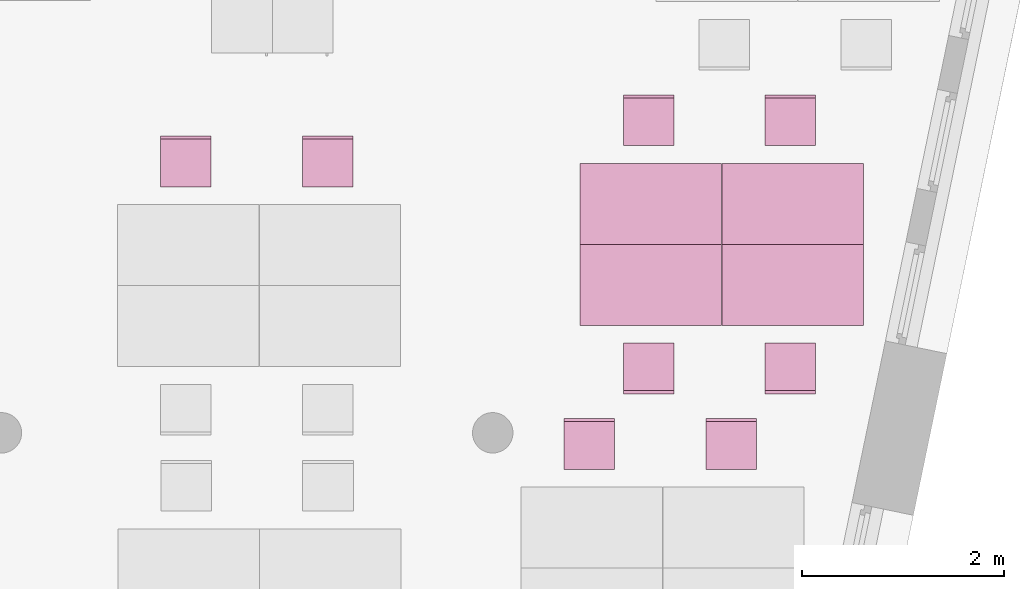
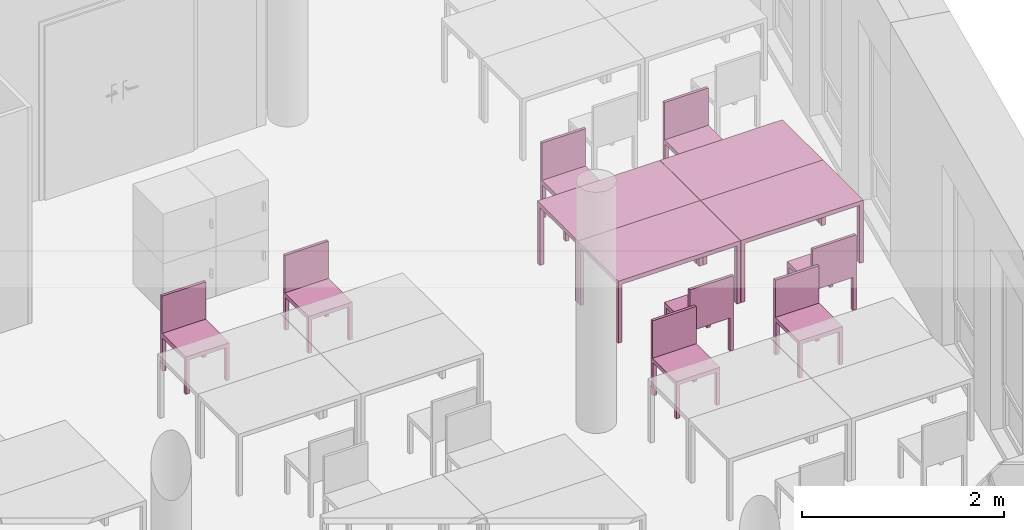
"""IFC4 building model written with IfcOpenShell, lengths in metres."""

from ifc_helpers import new_model, entity, si_unit, converted_unit, derived_unit, frame, origin, place, context, subcontext, project, spatial, faceted_brep, element, save


model = new_model("IFC4")

# Units and contexts
model_context = context("Model", 3, precision=1e-05, world=origin())
body_context = subcontext(model_context, "Body", "Model", "MODEL_VIEW")
ifc_project = project(units=[si_unit("LENGTHUNIT", "METRE"), si_unit("AREAUNIT", "SQUARE_METRE"), si_unit("VOLUMEUNIT", "CUBIC_METRE"), si_unit("MASSUNIT", "GRAM", prefix="KILO"), converted_unit("PLANEANGLEUNIT", "DEGREE", entity("IfcPlaneAngleMeasure", 0.0174532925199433), si_unit("PLANEANGLEUNIT", "RADIAN"), dimensions=[0, 0, 0, 0, 0, 0, 0]), derived_unit("THERMALTRANSMITTANCEUNIT", [(si_unit("POWERUNIT", "WATT"), 1), (si_unit("THERMODYNAMICTEMPERATUREUNIT", "KELVIN"), -1), (si_unit("LENGTHUNIT", "METRE"), -2)]), derived_unit("VOLUMETRICFLOWRATEUNIT", [(si_unit("LENGTHUNIT", "METRE"), 3), (converted_unit("TIMEUNIT", "hour", entity("IfcTimeMeasure", 3600.0), si_unit("TIMEUNIT", "SECOND"), dimensions=[0, 0, 1, 0, 0, 0, 0]), -1), (si_unit("LENGTHUNIT", "METRE"), -1)])], contexts=[model_context])

# Building, storeys
building_placement = place(None, origin())
building = spatial("IfcBuilding", under=ifc_project, at=building_placement, Name="HABITATGE PLURIFAMILIAR", CompositionType="ELEMENT")
storey_1_placement = place(building_placement, frame((0.0, 0.0, 18.29)))
storey_1 = spatial("IfcBuildingStorey", under=building, at=storey_1_placement, Name="PLANTA CINQUENA", CompositionType="ELEMENT", Elevation=18.29)
storey_2_placement = place(storey_1_placement, frame((0.0, 0.0, 15.28)))
storey_2 = spatial("IfcBuildingStorey", under=storey_1, at=storey_2_placement, Name="NOU", CompositionType="PARTIAL")

# Furniture
furniture_1_placement = place(storey_2_placement, frame((423.258128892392, 19.6622511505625, -15.28)))
element("IfcFurniture", 1, at=furniture_1_placement, inside=storey_2, Name="Taula 140X80_P5", context=body_context, shape_type="Brep", body=[
    faceted_brep([(0.04375, 0.05, 0.0), (0.0, 0.05, 0.0), (0.0, 0.0, 0.0), (0.04375, 0.0, 0.0), (0.04375, 0.0, 0.7), (0.0, 0.0, 0.7), (0.0, 0.05, 0.7), (0.04375, 0.05, 0.7)], [[[0, 1, 2, 3]], [[4, 5, 6, 7]], [[3, 4, 7, 0]], [[2, 5, 4, 3]], [[1, 6, 5, 2]], [[0, 7, 6, 1]]], orient=[[False], [False], [False], [False], [False], [False]]),
    faceted_brep([(0.04375, 0.800069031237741, 0.0), (0.0, 0.800069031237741, 0.0), (0.0, 0.750069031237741, 0.0), (0.04375, 0.750069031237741, 0.0), (0.04375, 0.750069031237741, 0.7), (0.0, 0.750069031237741, 0.7), (0.0, 0.800069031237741, 0.7), (0.04375, 0.800069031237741, 0.7)], [[[0, 1, 2, 3]], [[4, 5, 6, 7]], [[3, 4, 7, 0]], [[2, 5, 4, 3]], [[1, 6, 5, 2]], [[0, 7, 6, 1]]], orient=[[False], [False], [False], [False], [False], [False]]),
    faceted_brep([(1.39732768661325, 0.800069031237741, 0.7), (0.0, 0.800069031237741, 0.7), (0.0, 0.0, 0.7), (1.39732768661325, 0.0, 0.7), (1.39732768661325, 0.0, 0.75), (0.0, 0.0, 0.75), (0.0, 0.800069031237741, 0.75), (1.39732768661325, 0.800069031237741, 0.75)], [[[0, 1, 2, 3]], [[4, 5, 6, 7]], [[3, 4, 7, 0]], [[2, 5, 4, 3]], [[1, 6, 5, 2]], [[0, 7, 6, 1]]], orient=[[False], [False], [False], [False], [False], [False]]),
    faceted_brep([(1.39732768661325, 0.05, 0.0), (1.35357768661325, 0.05, 0.0), (1.35357768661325, 0.0, 0.0), (1.39732768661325, 0.0, 0.0), (1.39732768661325, 0.0, 0.7), (1.35357768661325, 0.0, 0.7), (1.35357768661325, 0.05, 0.7), (1.39732768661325, 0.05, 0.7)], [[[0, 1, 2, 3]], [[4, 5, 6, 7]], [[3, 4, 7, 0]], [[2, 5, 4, 3]], [[1, 6, 5, 2]], [[0, 7, 6, 1]]], orient=[[False], [False], [False], [False], [False], [False]]),
    faceted_brep([(1.39732768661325, 0.800069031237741, 0.0), (1.35357768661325, 0.800069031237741, 0.0), (1.35357768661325, 0.750069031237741, 0.0), (1.39732768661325, 0.750069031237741, 0.0), (1.39732768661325, 0.750069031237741, 0.7), (1.35357768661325, 0.750069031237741, 0.7), (1.35357768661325, 0.800069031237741, 0.7), (1.39732768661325, 0.800069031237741, 0.7)], [[[0, 1, 2, 3]], [[4, 5, 6, 7]], [[3, 4, 7, 0]], [[2, 5, 4, 3]], [[1, 6, 5, 2]], [[0, 7, 6, 1]]], orient=[[False], [False], [False], [False], [False], [False]]),
])
furniture_2_placement = place(storey_2_placement, frame((421.856949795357, 19.6622511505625, -15.28)))
element("IfcFurniture", 2, at=furniture_2_placement, inside=storey_2, Name="Taula 140X80_P5", context=body_context, shape_type="Brep", body=[
    faceted_brep([(0.04375, 0.05, 0.0), (0.0, 0.05, 0.0), (0.0, 0.0, 0.0), (0.04375, 0.0, 0.0), (0.04375, 0.0, 0.7), (0.0, 0.0, 0.7), (0.0, 0.05, 0.7), (0.04375, 0.05, 0.7)], [[[0, 1, 2, 3]], [[4, 5, 6, 7]], [[3, 4, 7, 0]], [[2, 5, 4, 3]], [[1, 6, 5, 2]], [[0, 7, 6, 1]]], orient=[[False], [False], [False], [False], [False], [False]]),
    faceted_brep([(0.04375, 0.800069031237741, 0.0), (0.0, 0.800069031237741, 0.0), (0.0, 0.750069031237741, 0.0), (0.04375, 0.750069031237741, 0.0), (0.04375, 0.750069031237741, 0.7), (0.0, 0.750069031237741, 0.7), (0.0, 0.800069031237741, 0.7), (0.04375, 0.800069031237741, 0.7)], [[[0, 1, 2, 3]], [[4, 5, 6, 7]], [[3, 4, 7, 0]], [[2, 5, 4, 3]], [[1, 6, 5, 2]], [[0, 7, 6, 1]]], orient=[[False], [False], [False], [False], [False], [False]]),
    faceted_brep([(1.39732768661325, 0.800069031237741, 0.7), (0.0, 0.800069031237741, 0.7), (0.0, 0.0, 0.7), (1.39732768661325, 0.0, 0.7), (1.39732768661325, 0.0, 0.75), (0.0, 0.0, 0.75), (0.0, 0.800069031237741, 0.75), (1.39732768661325, 0.800069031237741, 0.75)], [[[0, 1, 2, 3]], [[4, 5, 6, 7]], [[3, 4, 7, 0]], [[2, 5, 4, 3]], [[1, 6, 5, 2]], [[0, 7, 6, 1]]], orient=[[False], [False], [False], [False], [False], [False]]),
    faceted_brep([(1.39732768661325, 0.05, 0.0), (1.35357768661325, 0.05, 0.0), (1.35357768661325, 0.0, 0.0), (1.39732768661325, 0.0, 0.0), (1.39732768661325, 0.0, 0.7), (1.35357768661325, 0.0, 0.7), (1.35357768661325, 0.05, 0.7), (1.39732768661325, 0.05, 0.7)], [[[0, 1, 2, 3]], [[4, 5, 6, 7]], [[3, 4, 7, 0]], [[2, 5, 4, 3]], [[1, 6, 5, 2]], [[0, 7, 6, 1]]], orient=[[False], [False], [False], [False], [False], [False]]),
    faceted_brep([(1.39732768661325, 0.800069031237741, 0.0), (1.35357768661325, 0.800069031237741, 0.0), (1.35357768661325, 0.750069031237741, 0.0), (1.39732768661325, 0.750069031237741, 0.0), (1.39732768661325, 0.750069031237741, 0.7), (1.35357768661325, 0.750069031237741, 0.7), (1.35357768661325, 0.800069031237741, 0.7), (1.39732768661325, 0.800069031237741, 0.7)], [[[0, 1, 2, 3]], [[4, 5, 6, 7]], [[3, 4, 7, 0]], [[2, 5, 4, 3]], [[1, 6, 5, 2]], [[0, 7, 6, 1]]], orient=[[False], [False], [False], [False], [False], [False]]),
])
furniture_3_placement = place(storey_2_placement, frame((423.258128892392, 18.862182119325, -15.28)))
element("IfcFurniture", 3, at=furniture_3_placement, inside=storey_2, Name="Taula 140X80_P5", context=body_context, shape_type="Brep", body=[
    faceted_brep([(0.04375, 0.750069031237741, 0.0), (0.04375, 0.800069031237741, 0.0), (0.0, 0.800069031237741, 0.0), (0.0, 0.750069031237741, 0.0), (0.04375, 0.800069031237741, 0.7), (0.04375, 0.750069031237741, 0.7), (0.0, 0.750069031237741, 0.7), (0.0, 0.800069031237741, 0.7)], [[[0, 1, 2, 3]], [[4, 5, 6, 7]], [[1, 0, 5, 4]], [[2, 1, 4, 7]], [[3, 2, 7, 6]], [[0, 3, 6, 5]]], orient=[[False], [False], [False], [False], [False], [False]]),
    faceted_brep([(0.04375, 0.0, 0.0), (0.04375, 0.05, 0.0), (0.0, 0.05, 0.0), (0.0, 0.0, 0.0), (0.04375, 0.05, 0.7), (0.04375, 0.0, 0.7), (0.0, 0.0, 0.7), (0.0, 0.05, 0.7)], [[[0, 1, 2, 3]], [[4, 5, 6, 7]], [[1, 0, 5, 4]], [[2, 1, 4, 7]], [[3, 2, 7, 6]], [[0, 3, 6, 5]]], orient=[[False], [False], [False], [False], [False], [False]]),
    faceted_brep([(1.39732768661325, 0.0, 0.7), (1.39732768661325, 0.800069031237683, 0.7), (0.0, 0.800069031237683, 0.7), (0.0, 0.0, 0.7), (1.39732768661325, 0.800069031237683, 0.75), (1.39732768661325, 0.0, 0.75), (0.0, 0.0, 0.75), (0.0, 0.800069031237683, 0.75)], [[[0, 1, 2, 3]], [[4, 5, 6, 7]], [[1, 0, 5, 4]], [[2, 1, 4, 7]], [[3, 2, 7, 6]], [[0, 3, 6, 5]]], orient=[[False], [False], [False], [False], [False], [False]]),
    faceted_brep([(1.39732768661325, 0.750069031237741, 0.0), (1.39732768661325, 0.800069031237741, 0.0), (1.35357768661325, 0.800069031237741, 0.0), (1.35357768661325, 0.750069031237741, 0.0), (1.39732768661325, 0.800069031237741, 0.7), (1.39732768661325, 0.750069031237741, 0.7), (1.35357768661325, 0.750069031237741, 0.7), (1.35357768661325, 0.800069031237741, 0.7)], [[[0, 1, 2, 3]], [[4, 5, 6, 7]], [[1, 0, 5, 4]], [[2, 1, 4, 7]], [[3, 2, 7, 6]], [[0, 3, 6, 5]]], orient=[[False], [False], [False], [False], [False], [False]]),
    faceted_brep([(1.39732768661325, 0.0, 0.0), (1.39732768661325, 0.05, 0.0), (1.35357768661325, 0.05, 0.0), (1.35357768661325, 0.0, 0.0), (1.39732768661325, 0.05, 0.7), (1.39732768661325, 0.0, 0.7), (1.35357768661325, 0.0, 0.7), (1.35357768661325, 0.05, 0.7)], [[[0, 1, 2, 3]], [[4, 5, 6, 7]], [[1, 0, 5, 4]], [[2, 1, 4, 7]], [[3, 2, 7, 6]], [[0, 3, 6, 5]]], orient=[[False], [False], [False], [False], [False], [False]]),
])
furniture_4_placement = place(storey_2_placement, frame((421.856949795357, 18.862182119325, -15.28)))
element("IfcFurniture", 4, at=furniture_4_placement, inside=storey_2, Name="Taula 140X80_P5", context=body_context, shape_type="Brep", body=[
    faceted_brep([(0.04375, 0.750069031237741, 0.0), (0.04375, 0.800069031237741, 0.0), (0.0, 0.800069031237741, 0.0), (0.0, 0.750069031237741, 0.0), (0.04375, 0.800069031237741, 0.7), (0.04375, 0.750069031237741, 0.7), (0.0, 0.750069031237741, 0.7), (0.0, 0.800069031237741, 0.7)], [[[0, 1, 2, 3]], [[4, 5, 6, 7]], [[1, 0, 5, 4]], [[2, 1, 4, 7]], [[3, 2, 7, 6]], [[0, 3, 6, 5]]], orient=[[False], [False], [False], [False], [False], [False]]),
    faceted_brep([(0.04375, 0.0, 0.0), (0.04375, 0.05, 0.0), (0.0, 0.05, 0.0), (0.0, 0.0, 0.0), (0.04375, 0.05, 0.7), (0.04375, 0.0, 0.7), (0.0, 0.0, 0.7), (0.0, 0.05, 0.7)], [[[0, 1, 2, 3]], [[4, 5, 6, 7]], [[1, 0, 5, 4]], [[2, 1, 4, 7]], [[3, 2, 7, 6]], [[0, 3, 6, 5]]], orient=[[False], [False], [False], [False], [False], [False]]),
    faceted_brep([(1.39732768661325, 0.0, 0.7), (1.39732768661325, 0.800069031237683, 0.7), (0.0, 0.800069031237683, 0.7), (0.0, 0.0, 0.7), (1.39732768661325, 0.800069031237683, 0.75), (1.39732768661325, 0.0, 0.75), (0.0, 0.0, 0.75), (0.0, 0.800069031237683, 0.75)], [[[0, 1, 2, 3]], [[4, 5, 6, 7]], [[1, 0, 5, 4]], [[2, 1, 4, 7]], [[3, 2, 7, 6]], [[0, 3, 6, 5]]], orient=[[False], [False], [False], [False], [False], [False]]),
    faceted_brep([(1.39732768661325, 0.750069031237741, 0.0), (1.39732768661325, 0.800069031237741, 0.0), (1.35357768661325, 0.800069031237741, 0.0), (1.35357768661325, 0.750069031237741, 0.0), (1.39732768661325, 0.800069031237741, 0.7), (1.39732768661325, 0.750069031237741, 0.7), (1.35357768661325, 0.750069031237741, 0.7), (1.35357768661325, 0.800069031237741, 0.7)], [[[0, 1, 2, 3]], [[4, 5, 6, 7]], [[1, 0, 5, 4]], [[2, 1, 4, 7]], [[3, 2, 7, 6]], [[0, 3, 6, 5]]], orient=[[False], [False], [False], [False], [False], [False]]),
    faceted_brep([(1.39732768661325, 0.0, 0.0), (1.39732768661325, 0.05, 0.0), (1.35357768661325, 0.05, 0.0), (1.35357768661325, 0.0, 0.0), (1.39732768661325, 0.05, 0.7), (1.39732768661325, 0.0, 0.7), (1.35357768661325, 0.0, 0.7), (1.35357768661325, 0.05, 0.7)], [[[0, 1, 2, 3]], [[4, 5, 6, 7]], [[1, 0, 5, 4]], [[2, 1, 4, 7]], [[3, 2, 7, 6]], [[0, 3, 6, 5]]], orient=[[False], [False], [False], [False], [False], [False]]),
])
furniture_5_placement = place(storey_2_placement, frame((419.110800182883, 20.2310435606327, -15.2746385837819)))
element("IfcFurniture", 5, at=furniture_5_placement, inside=storey_2, Name="Cadira d'Oficina_P5", context=body_context, shape_type="Brep", body=[
    faceted_brep([(0.0, 0.0, 0.4), (0.5, 0.0, 0.4), (0.5, 0.500000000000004, 0.4), (0.0, 0.5, 0.4), (0.0, 0.5, 0.45), (0.5, 0.500000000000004, 0.45), (0.5, 0.0, 0.45), (0.0, 0.0, 0.45)], [[[0, 1, 2, 3]], [[4, 5, 6, 7]], [[3, 4, 7, 0]], [[2, 5, 4, 3]], [[1, 6, 5, 2]], [[0, 7, 6, 1]]], orient=[[False], [False], [False], [False], [False], [False]]),
    faceted_brep([(0.5, 0.460000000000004, 0.0), (0.5, 0.500000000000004, 0.0), (0.46, 0.5, 0.0), (0.46, 0.46, 0.0), (0.46, 0.46, 0.4), (0.46, 0.5, 0.4), (0.5, 0.500000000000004, 0.4), (0.5, 0.460000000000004, 0.4)], [[[0, 1, 2, 3]], [[4, 5, 6, 7]], [[3, 4, 7, 0]], [[2, 5, 4, 3]], [[1, 6, 5, 2]], [[0, 7, 6, 1]]], orient=[[False], [False], [False], [False], [False], [False]]),
    faceted_brep([(0.5, 0.0, 0.0), (0.5, 0.0400000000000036, 0.0), (0.46, 0.04, 0.0), (0.46, 0.0, 0.0), (0.46, 0.0, 0.4), (0.46, 0.04, 0.4), (0.5, 0.0400000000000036, 0.4), (0.5, 0.0, 0.4)], [[[0, 1, 2, 3]], [[4, 5, 6, 7]], [[3, 4, 7, 0]], [[2, 5, 4, 3]], [[1, 6, 5, 2]], [[0, 7, 6, 1]]], orient=[[False], [False], [False], [False], [False], [False]]),
    faceted_brep([(0.04, 0.46, 0.0), (0.04, 0.5, 0.0), (0.0, 0.5, 0.0), (0.0, 0.46, 0.0), (0.0, 0.46, 0.4), (0.0, 0.5, 0.4), (0.04, 0.5, 0.4), (0.04, 0.46, 0.4)], [[[0, 1, 2, 3]], [[4, 5, 6, 7]], [[3, 4, 7, 0]], [[2, 5, 4, 3]], [[1, 6, 5, 2]], [[0, 7, 6, 1]]], orient=[[False], [False], [False], [False], [False], [False]]),
    faceted_brep([(0.04, 0.0, 0.0), (0.04, 0.04, 0.0), (0.0, 0.04, 0.0), (0.0, 0.0, 0.0), (0.0, 0.0, 0.4), (0.0, 0.04, 0.4), (0.04, 0.04, 0.4), (0.04, 0.0, 0.4)], [[[0, 1, 2, 3]], [[4, 5, 6, 7]], [[3, 4, 7, 0]], [[2, 5, 4, 3]], [[1, 6, 5, 2]], [[0, 7, 6, 1]]], orient=[[False], [False], [False], [False], [False], [False]]),
    faceted_brep([(0.5, 0.470000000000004, 0.45), (0.5, 0.500000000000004, 0.45), (0.0, 0.5, 0.45), (0.0, 0.47, 0.45), (0.0, 0.47, 0.9), (0.0, 0.5, 0.9), (0.5, 0.500000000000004, 0.9), (0.5, 0.470000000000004, 0.9)], [[[0, 1, 2, 3]], [[4, 5, 6, 7]], [[3, 4, 7, 0]], [[2, 5, 4, 3]], [[1, 6, 5, 2]], [[0, 7, 6, 1]]], orient=[[False], [False], [False], [False], [False], [False]]),
])
furniture_6_placement = place(storey_2_placement, frame((417.709621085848, 20.2310435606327, -15.2746385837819)))
element("IfcFurniture", 6, at=furniture_6_placement, inside=storey_2, Name="Cadira d'Oficina_P5", context=body_context, shape_type="Brep", body=[
    faceted_brep([(0.0, 0.0, 0.4), (0.5, 0.0, 0.4), (0.5, 0.500000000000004, 0.4), (0.0, 0.5, 0.4), (0.0, 0.5, 0.45), (0.5, 0.500000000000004, 0.45), (0.5, 0.0, 0.45), (0.0, 0.0, 0.45)], [[[0, 1, 2, 3]], [[4, 5, 6, 7]], [[3, 4, 7, 0]], [[2, 5, 4, 3]], [[1, 6, 5, 2]], [[0, 7, 6, 1]]], orient=[[False], [False], [False], [False], [False], [False]]),
    faceted_brep([(0.5, 0.460000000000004, 0.0), (0.5, 0.500000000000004, 0.0), (0.46, 0.5, 0.0), (0.46, 0.46, 0.0), (0.46, 0.46, 0.4), (0.46, 0.5, 0.4), (0.5, 0.500000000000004, 0.4), (0.5, 0.460000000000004, 0.4)], [[[0, 1, 2, 3]], [[4, 5, 6, 7]], [[3, 4, 7, 0]], [[2, 5, 4, 3]], [[1, 6, 5, 2]], [[0, 7, 6, 1]]], orient=[[False], [False], [False], [False], [False], [False]]),
    faceted_brep([(0.5, 0.0, 0.0), (0.5, 0.0400000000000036, 0.0), (0.46, 0.04, 0.0), (0.46, 0.0, 0.0), (0.46, 0.0, 0.4), (0.46, 0.04, 0.4), (0.5, 0.0400000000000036, 0.4), (0.5, 0.0, 0.4)], [[[0, 1, 2, 3]], [[4, 5, 6, 7]], [[3, 4, 7, 0]], [[2, 5, 4, 3]], [[1, 6, 5, 2]], [[0, 7, 6, 1]]], orient=[[False], [False], [False], [False], [False], [False]]),
    faceted_brep([(0.04, 0.46, 0.0), (0.04, 0.5, 0.0), (0.0, 0.5, 0.0), (0.0, 0.46, 0.0), (0.0, 0.46, 0.4), (0.0, 0.5, 0.4), (0.04, 0.5, 0.4), (0.04, 0.46, 0.4)], [[[0, 1, 2, 3]], [[4, 5, 6, 7]], [[3, 4, 7, 0]], [[2, 5, 4, 3]], [[1, 6, 5, 2]], [[0, 7, 6, 1]]], orient=[[False], [False], [False], [False], [False], [False]]),
    faceted_brep([(0.04, 0.0, 0.0), (0.04, 0.04, 0.0), (0.0, 0.04, 0.0), (0.0, 0.0, 0.0), (0.0, 0.0, 0.4), (0.0, 0.04, 0.4), (0.04, 0.04, 0.4), (0.04, 0.0, 0.4)], [[[0, 1, 2, 3]], [[4, 5, 6, 7]], [[3, 4, 7, 0]], [[2, 5, 4, 3]], [[1, 6, 5, 2]], [[0, 7, 6, 1]]], orient=[[False], [False], [False], [False], [False], [False]]),
    faceted_brep([(0.5, 0.470000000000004, 0.45), (0.5, 0.500000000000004, 0.45), (0.0, 0.5, 0.45), (0.0, 0.47, 0.45), (0.0, 0.47, 0.9), (0.0, 0.5, 0.9), (0.5, 0.500000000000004, 0.9), (0.5, 0.470000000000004, 0.9)], [[[0, 1, 2, 3]], [[4, 5, 6, 7]], [[3, 4, 7, 0]], [[2, 5, 4, 3]], [[1, 6, 5, 2]], [[0, 7, 6, 1]]], orient=[[False], [False], [False], [False], [False], [False]]),
])
furniture_7_placement = place(storey_2_placement, frame((423.683158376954, 20.6390054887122, -15.2746385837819)))
element("IfcFurniture", 7, at=furniture_7_placement, inside=storey_2, Name="Cadira d'Oficina_P5", context=body_context, shape_type="Brep", body=[
    faceted_brep([(0.0, 0.0, 0.4), (0.5, 0.0, 0.4), (0.5, 0.500000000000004, 0.4), (0.0, 0.5, 0.4), (0.0, 0.5, 0.45), (0.5, 0.500000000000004, 0.45), (0.5, 0.0, 0.45), (0.0, 0.0, 0.45)], [[[0, 1, 2, 3]], [[4, 5, 6, 7]], [[3, 4, 7, 0]], [[2, 5, 4, 3]], [[1, 6, 5, 2]], [[0, 7, 6, 1]]], orient=[[False], [False], [False], [False], [False], [False]]),
    faceted_brep([(0.5, 0.460000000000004, 0.0), (0.5, 0.500000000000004, 0.0), (0.46, 0.5, 0.0), (0.46, 0.46, 0.0), (0.46, 0.46, 0.4), (0.46, 0.5, 0.4), (0.5, 0.500000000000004, 0.4), (0.5, 0.460000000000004, 0.4)], [[[0, 1, 2, 3]], [[4, 5, 6, 7]], [[3, 4, 7, 0]], [[2, 5, 4, 3]], [[1, 6, 5, 2]], [[0, 7, 6, 1]]], orient=[[False], [False], [False], [False], [False], [False]]),
    faceted_brep([(0.5, 0.0, 0.0), (0.5, 0.0400000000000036, 0.0), (0.46, 0.04, 0.0), (0.46, 0.0, 0.0), (0.46, 0.0, 0.4), (0.46, 0.04, 0.4), (0.5, 0.0400000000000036, 0.4), (0.5, 0.0, 0.4)], [[[0, 1, 2, 3]], [[4, 5, 6, 7]], [[3, 4, 7, 0]], [[2, 5, 4, 3]], [[1, 6, 5, 2]], [[0, 7, 6, 1]]], orient=[[False], [False], [False], [False], [False], [False]]),
    faceted_brep([(0.04, 0.46, 0.0), (0.04, 0.5, 0.0), (0.0, 0.5, 0.0), (0.0, 0.46, 0.0), (0.0, 0.46, 0.4), (0.0, 0.5, 0.4), (0.04, 0.5, 0.4), (0.04, 0.46, 0.4)], [[[0, 1, 2, 3]], [[4, 5, 6, 7]], [[3, 4, 7, 0]], [[2, 5, 4, 3]], [[1, 6, 5, 2]], [[0, 7, 6, 1]]], orient=[[False], [False], [False], [False], [False], [False]]),
    faceted_brep([(0.04, 0.0, 0.0), (0.04, 0.04, 0.0), (0.0, 0.04, 0.0), (0.0, 0.0, 0.0), (0.0, 0.0, 0.4), (0.0, 0.04, 0.4), (0.04, 0.04, 0.4), (0.04, 0.0, 0.4)], [[[0, 1, 2, 3]], [[4, 5, 6, 7]], [[3, 4, 7, 0]], [[2, 5, 4, 3]], [[1, 6, 5, 2]], [[0, 7, 6, 1]]], orient=[[False], [False], [False], [False], [False], [False]]),
    faceted_brep([(0.5, 0.470000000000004, 0.45), (0.5, 0.500000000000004, 0.45), (0.0, 0.5, 0.45), (0.0, 0.47, 0.45), (0.0, 0.47, 0.9), (0.0, 0.5, 0.9), (0.5, 0.500000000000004, 0.9), (0.5, 0.470000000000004, 0.9)], [[[0, 1, 2, 3]], [[4, 5, 6, 7]], [[3, 4, 7, 0]], [[2, 5, 4, 3]], [[1, 6, 5, 2]], [[0, 7, 6, 1]]], orient=[[False], [False], [False], [False], [False], [False]]),
])
furniture_8_placement = place(storey_2_placement, frame((422.281979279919, 20.6390054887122, -15.2746385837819)))
element("IfcFurniture", 8, at=furniture_8_placement, inside=storey_2, Name="Cadira d'Oficina_P5", context=body_context, shape_type="Brep", body=[
    faceted_brep([(0.0, 0.0, 0.4), (0.5, 0.0, 0.4), (0.5, 0.500000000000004, 0.4), (0.0, 0.5, 0.4), (0.0, 0.5, 0.45), (0.5, 0.500000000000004, 0.45), (0.5, 0.0, 0.45), (0.0, 0.0, 0.45)], [[[0, 1, 2, 3]], [[4, 5, 6, 7]], [[3, 4, 7, 0]], [[2, 5, 4, 3]], [[1, 6, 5, 2]], [[0, 7, 6, 1]]], orient=[[False], [False], [False], [False], [False], [False]]),
    faceted_brep([(0.5, 0.460000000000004, 0.0), (0.5, 0.500000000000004, 0.0), (0.46, 0.5, 0.0), (0.46, 0.46, 0.0), (0.46, 0.46, 0.4), (0.46, 0.5, 0.4), (0.5, 0.500000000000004, 0.4), (0.5, 0.460000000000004, 0.4)], [[[0, 1, 2, 3]], [[4, 5, 6, 7]], [[3, 4, 7, 0]], [[2, 5, 4, 3]], [[1, 6, 5, 2]], [[0, 7, 6, 1]]], orient=[[False], [False], [False], [False], [False], [False]]),
    faceted_brep([(0.5, 0.0, 0.0), (0.5, 0.0400000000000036, 0.0), (0.46, 0.04, 0.0), (0.46, 0.0, 0.0), (0.46, 0.0, 0.4), (0.46, 0.04, 0.4), (0.5, 0.0400000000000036, 0.4), (0.5, 0.0, 0.4)], [[[0, 1, 2, 3]], [[4, 5, 6, 7]], [[3, 4, 7, 0]], [[2, 5, 4, 3]], [[1, 6, 5, 2]], [[0, 7, 6, 1]]], orient=[[False], [False], [False], [False], [False], [False]]),
    faceted_brep([(0.04, 0.46, 0.0), (0.04, 0.5, 0.0), (0.0, 0.5, 0.0), (0.0, 0.46, 0.0), (0.0, 0.46, 0.4), (0.0, 0.5, 0.4), (0.04, 0.5, 0.4), (0.04, 0.46, 0.4)], [[[0, 1, 2, 3]], [[4, 5, 6, 7]], [[3, 4, 7, 0]], [[2, 5, 4, 3]], [[1, 6, 5, 2]], [[0, 7, 6, 1]]], orient=[[False], [False], [False], [False], [False], [False]]),
    faceted_brep([(0.04, 0.0, 0.0), (0.04, 0.04, 0.0), (0.0, 0.04, 0.0), (0.0, 0.0, 0.0), (0.0, 0.0, 0.4), (0.0, 0.04, 0.4), (0.04, 0.04, 0.4), (0.04, 0.0, 0.4)], [[[0, 1, 2, 3]], [[4, 5, 6, 7]], [[3, 4, 7, 0]], [[2, 5, 4, 3]], [[1, 6, 5, 2]], [[0, 7, 6, 1]]], orient=[[False], [False], [False], [False], [False], [False]]),
    faceted_brep([(0.5, 0.470000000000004, 0.45), (0.5, 0.500000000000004, 0.45), (0.0, 0.5, 0.45), (0.0, 0.47, 0.45), (0.0, 0.47, 0.9), (0.0, 0.5, 0.9), (0.5, 0.500000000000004, 0.9), (0.5, 0.470000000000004, 0.9)], [[[0, 1, 2, 3]], [[4, 5, 6, 7]], [[3, 4, 7, 0]], [[2, 5, 4, 3]], [[1, 6, 5, 2]], [[0, 7, 6, 1]]], orient=[[False], [False], [False], [False], [False], [False]]),
])
furniture_9_placement = place(storey_2_placement, frame((423.683158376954, 18.1854968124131, -15.2746385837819)))
element("IfcFurniture", 9, at=furniture_9_placement, inside=storey_2, Name="Cadira d'Oficina_P5", context=body_context, shape_type="Brep", body=[
    faceted_brep([(0.0, 0.5, 0.4), (0.0, 0.0, 0.4), (0.5, 0.0, 0.4), (0.5, 0.499999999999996, 0.4), (0.0, 0.0, 0.45), (0.0, 0.5, 0.45), (0.5, 0.499999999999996, 0.45), (0.5, 0.0, 0.45)], [[[0, 1, 2, 3]], [[4, 5, 6, 7]], [[1, 0, 5, 4]], [[2, 1, 4, 7]], [[3, 2, 7, 6]], [[0, 3, 6, 5]]], orient=[[False], [False], [False], [False], [False], [False]]),
    faceted_brep([(0.5, 0.0399999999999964, 0.0), (0.46, 0.04, 0.0), (0.46, 0.0, 0.0), (0.5, 0.0, 0.0), (0.46, 0.04, 0.4), (0.5, 0.0399999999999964, 0.4), (0.5, 0.0, 0.4), (0.46, 0.0, 0.4)], [[[0, 1, 2, 3]], [[4, 5, 6, 7]], [[1, 0, 5, 4]], [[2, 1, 4, 7]], [[3, 2, 7, 6]], [[0, 3, 6, 5]]], orient=[[False], [False], [False], [False], [False], [False]]),
    faceted_brep([(0.5, 0.499999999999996, 0.0), (0.46, 0.5, 0.0), (0.46, 0.46, 0.0), (0.5, 0.459999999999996, 0.0), (0.46, 0.5, 0.4), (0.5, 0.499999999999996, 0.4), (0.5, 0.459999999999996, 0.4), (0.46, 0.46, 0.4)], [[[0, 1, 2, 3]], [[4, 5, 6, 7]], [[1, 0, 5, 4]], [[2, 1, 4, 7]], [[3, 2, 7, 6]], [[0, 3, 6, 5]]], orient=[[False], [False], [False], [False], [False], [False]]),
    faceted_brep([(0.04, 0.04, 0.0), (0.0, 0.04, 0.0), (0.0, 0.0, 0.0), (0.04, 0.0, 0.0), (0.0, 0.04, 0.4), (0.04, 0.04, 0.4), (0.04, 0.0, 0.4), (0.0, 0.0, 0.4)], [[[0, 1, 2, 3]], [[4, 5, 6, 7]], [[1, 0, 5, 4]], [[2, 1, 4, 7]], [[3, 2, 7, 6]], [[0, 3, 6, 5]]], orient=[[False], [False], [False], [False], [False], [False]]),
    faceted_brep([(0.04, 0.5, 0.0), (0.0, 0.5, 0.0), (0.0, 0.46, 0.0), (0.04, 0.46, 0.0), (0.0, 0.5, 0.4), (0.04, 0.5, 0.4), (0.04, 0.46, 0.4), (0.0, 0.46, 0.4)], [[[0, 1, 2, 3]], [[4, 5, 6, 7]], [[1, 0, 5, 4]], [[2, 1, 4, 7]], [[3, 2, 7, 6]], [[0, 3, 6, 5]]], orient=[[False], [False], [False], [False], [False], [False]]),
    faceted_brep([(0.5, 0.0299999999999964, 0.45), (0.0, 0.03, 0.45), (0.0, 0.0, 0.45), (0.5, 0.0, 0.45), (0.0, 0.03, 0.9), (0.5, 0.0299999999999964, 0.9), (0.5, 0.0, 0.9), (0.0, 0.0, 0.9)], [[[0, 1, 2, 3]], [[4, 5, 6, 7]], [[1, 0, 5, 4]], [[2, 1, 4, 7]], [[3, 2, 7, 6]], [[0, 3, 6, 5]]], orient=[[False], [False], [False], [False], [False], [False]]),
])
furniture_10_placement = place(storey_2_placement, frame((422.281979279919, 18.1854968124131, -15.2746385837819)))
element("IfcFurniture", 10, at=furniture_10_placement, inside=storey_2, Name="Cadira d'Oficina_P5", context=body_context, shape_type="Brep", body=[
    faceted_brep([(0.0, 0.5, 0.4), (0.0, 0.0, 0.4), (0.5, 0.0, 0.4), (0.5, 0.499999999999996, 0.4), (0.0, 0.0, 0.45), (0.0, 0.5, 0.45), (0.5, 0.499999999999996, 0.45), (0.5, 0.0, 0.45)], [[[0, 1, 2, 3]], [[4, 5, 6, 7]], [[1, 0, 5, 4]], [[2, 1, 4, 7]], [[3, 2, 7, 6]], [[0, 3, 6, 5]]], orient=[[False], [False], [False], [False], [False], [False]]),
    faceted_brep([(0.5, 0.0399999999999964, 0.0), (0.46, 0.04, 0.0), (0.46, 0.0, 0.0), (0.5, 0.0, 0.0), (0.46, 0.04, 0.4), (0.5, 0.0399999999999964, 0.4), (0.5, 0.0, 0.4), (0.46, 0.0, 0.4)], [[[0, 1, 2, 3]], [[4, 5, 6, 7]], [[1, 0, 5, 4]], [[2, 1, 4, 7]], [[3, 2, 7, 6]], [[0, 3, 6, 5]]], orient=[[False], [False], [False], [False], [False], [False]]),
    faceted_brep([(0.5, 0.499999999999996, 0.0), (0.46, 0.5, 0.0), (0.46, 0.46, 0.0), (0.5, 0.459999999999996, 0.0), (0.46, 0.5, 0.4), (0.5, 0.499999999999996, 0.4), (0.5, 0.459999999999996, 0.4), (0.46, 0.46, 0.4)], [[[0, 1, 2, 3]], [[4, 5, 6, 7]], [[1, 0, 5, 4]], [[2, 1, 4, 7]], [[3, 2, 7, 6]], [[0, 3, 6, 5]]], orient=[[False], [False], [False], [False], [False], [False]]),
    faceted_brep([(0.04, 0.04, 0.0), (0.0, 0.04, 0.0), (0.0, 0.0, 0.0), (0.04, 0.0, 0.0), (0.0, 0.04, 0.4), (0.04, 0.04, 0.4), (0.04, 0.0, 0.4), (0.0, 0.0, 0.4)], [[[0, 1, 2, 3]], [[4, 5, 6, 7]], [[1, 0, 5, 4]], [[2, 1, 4, 7]], [[3, 2, 7, 6]], [[0, 3, 6, 5]]], orient=[[False], [False], [False], [False], [False], [False]]),
    faceted_brep([(0.04, 0.5, 0.0), (0.0, 0.5, 0.0), (0.0, 0.46, 0.0), (0.04, 0.46, 0.0), (0.0, 0.5, 0.4), (0.04, 0.5, 0.4), (0.04, 0.46, 0.4), (0.0, 0.46, 0.4)], [[[0, 1, 2, 3]], [[4, 5, 6, 7]], [[1, 0, 5, 4]], [[2, 1, 4, 7]], [[3, 2, 7, 6]], [[0, 3, 6, 5]]], orient=[[False], [False], [False], [False], [False], [False]]),
    faceted_brep([(0.5, 0.0299999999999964, 0.45), (0.0, 0.03, 0.45), (0.0, 0.0, 0.45), (0.5, 0.0, 0.45), (0.0, 0.03, 0.9), (0.5, 0.0299999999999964, 0.9), (0.5, 0.0, 0.9), (0.0, 0.0, 0.9)], [[[0, 1, 2, 3]], [[4, 5, 6, 7]], [[1, 0, 5, 4]], [[2, 1, 4, 7]], [[3, 2, 7, 6]], [[0, 3, 6, 5]]], orient=[[False], [False], [False], [False], [False], [False]]),
])
furniture_11_placement = place(storey_2_placement, frame((421.697130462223, 17.4388674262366, -15.2746385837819)))
element("IfcFurniture", 11, at=furniture_11_placement, inside=storey_2, Name="Cadira d'Oficina_P5", context=body_context, shape_type="Brep", body=[
    faceted_brep([(0.0, 0.0, 0.4), (0.5, 0.0, 0.4), (0.5, 0.500000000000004, 0.4), (0.0, 0.5, 0.4), (0.0, 0.5, 0.45), (0.5, 0.500000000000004, 0.45), (0.5, 0.0, 0.45), (0.0, 0.0, 0.45)], [[[0, 1, 2, 3]], [[4, 5, 6, 7]], [[3, 4, 7, 0]], [[2, 5, 4, 3]], [[1, 6, 5, 2]], [[0, 7, 6, 1]]], orient=[[False], [False], [False], [False], [False], [False]]),
    faceted_brep([(0.5, 0.460000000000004, 0.0), (0.5, 0.500000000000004, 0.0), (0.46, 0.5, 0.0), (0.46, 0.46, 0.0), (0.46, 0.46, 0.4), (0.46, 0.5, 0.4), (0.5, 0.500000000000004, 0.4), (0.5, 0.460000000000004, 0.4)], [[[0, 1, 2, 3]], [[4, 5, 6, 7]], [[3, 4, 7, 0]], [[2, 5, 4, 3]], [[1, 6, 5, 2]], [[0, 7, 6, 1]]], orient=[[False], [False], [False], [False], [False], [False]]),
    faceted_brep([(0.5, 0.0, 0.0), (0.5, 0.0400000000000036, 0.0), (0.46, 0.04, 0.0), (0.46, 0.0, 0.0), (0.46, 0.0, 0.4), (0.46, 0.04, 0.4), (0.5, 0.0400000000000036, 0.4), (0.5, 0.0, 0.4)], [[[0, 1, 2, 3]], [[4, 5, 6, 7]], [[3, 4, 7, 0]], [[2, 5, 4, 3]], [[1, 6, 5, 2]], [[0, 7, 6, 1]]], orient=[[False], [False], [False], [False], [False], [False]]),
    faceted_brep([(0.04, 0.46, 0.0), (0.04, 0.5, 0.0), (0.0, 0.5, 0.0), (0.0, 0.46, 0.0), (0.0, 0.46, 0.4), (0.0, 0.5, 0.4), (0.04, 0.5, 0.4), (0.04, 0.46, 0.4)], [[[0, 1, 2, 3]], [[4, 5, 6, 7]], [[3, 4, 7, 0]], [[2, 5, 4, 3]], [[1, 6, 5, 2]], [[0, 7, 6, 1]]], orient=[[False], [False], [False], [False], [False], [False]]),
    faceted_brep([(0.04, 0.0, 0.0), (0.04, 0.04, 0.0), (0.0, 0.04, 0.0), (0.0, 0.0, 0.0), (0.0, 0.0, 0.4), (0.0, 0.04, 0.4), (0.04, 0.04, 0.4), (0.04, 0.0, 0.4)], [[[0, 1, 2, 3]], [[4, 5, 6, 7]], [[3, 4, 7, 0]], [[2, 5, 4, 3]], [[1, 6, 5, 2]], [[0, 7, 6, 1]]], orient=[[False], [False], [False], [False], [False], [False]]),
    faceted_brep([(0.5, 0.470000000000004, 0.45), (0.5, 0.500000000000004, 0.45), (0.0, 0.5, 0.45), (0.0, 0.47, 0.45), (0.0, 0.47, 0.9), (0.0, 0.5, 0.9), (0.5, 0.500000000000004, 0.9), (0.5, 0.470000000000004, 0.9)], [[[0, 1, 2, 3]], [[4, 5, 6, 7]], [[3, 4, 7, 0]], [[2, 5, 4, 3]], [[1, 6, 5, 2]], [[0, 7, 6, 1]]], orient=[[False], [False], [False], [False], [False], [False]]),
])
furniture_12_placement = place(storey_2_placement, frame((423.098309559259, 17.4388674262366, -15.2746385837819)))
element("IfcFurniture", 12, at=furniture_12_placement, inside=storey_2, Name="Cadira d'Oficina_P5", context=body_context, shape_type="Brep", body=[
    faceted_brep([(0.0, 0.0, 0.4), (0.5, 0.0, 0.4), (0.5, 0.500000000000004, 0.4), (0.0, 0.5, 0.4), (0.0, 0.5, 0.45), (0.5, 0.500000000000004, 0.45), (0.5, 0.0, 0.45), (0.0, 0.0, 0.45)], [[[0, 1, 2, 3]], [[4, 5, 6, 7]], [[3, 4, 7, 0]], [[2, 5, 4, 3]], [[1, 6, 5, 2]], [[0, 7, 6, 1]]], orient=[[False], [False], [False], [False], [False], [False]]),
    faceted_brep([(0.5, 0.460000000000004, 0.0), (0.5, 0.500000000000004, 0.0), (0.46, 0.5, 0.0), (0.46, 0.46, 0.0), (0.46, 0.46, 0.4), (0.46, 0.5, 0.4), (0.5, 0.500000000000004, 0.4), (0.5, 0.460000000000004, 0.4)], [[[0, 1, 2, 3]], [[4, 5, 6, 7]], [[3, 4, 7, 0]], [[2, 5, 4, 3]], [[1, 6, 5, 2]], [[0, 7, 6, 1]]], orient=[[False], [False], [False], [False], [False], [False]]),
    faceted_brep([(0.5, 0.0, 0.0), (0.5, 0.0400000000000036, 0.0), (0.46, 0.04, 0.0), (0.46, 0.0, 0.0), (0.46, 0.0, 0.4), (0.46, 0.04, 0.4), (0.5, 0.0400000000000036, 0.4), (0.5, 0.0, 0.4)], [[[0, 1, 2, 3]], [[4, 5, 6, 7]], [[3, 4, 7, 0]], [[2, 5, 4, 3]], [[1, 6, 5, 2]], [[0, 7, 6, 1]]], orient=[[False], [False], [False], [False], [False], [False]]),
    faceted_brep([(0.04, 0.46, 0.0), (0.04, 0.5, 0.0), (0.0, 0.5, 0.0), (0.0, 0.46, 0.0), (0.0, 0.46, 0.4), (0.0, 0.5, 0.4), (0.04, 0.5, 0.4), (0.04, 0.46, 0.4)], [[[0, 1, 2, 3]], [[4, 5, 6, 7]], [[3, 4, 7, 0]], [[2, 5, 4, 3]], [[1, 6, 5, 2]], [[0, 7, 6, 1]]], orient=[[False], [False], [False], [False], [False], [False]]),
    faceted_brep([(0.04, 0.0, 0.0), (0.04, 0.04, 0.0), (0.0, 0.04, 0.0), (0.0, 0.0, 0.0), (0.0, 0.0, 0.4), (0.0, 0.04, 0.4), (0.04, 0.04, 0.4), (0.04, 0.0, 0.4)], [[[0, 1, 2, 3]], [[4, 5, 6, 7]], [[3, 4, 7, 0]], [[2, 5, 4, 3]], [[1, 6, 5, 2]], [[0, 7, 6, 1]]], orient=[[False], [False], [False], [False], [False], [False]]),
    faceted_brep([(0.5, 0.470000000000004, 0.45), (0.5, 0.500000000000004, 0.45), (0.0, 0.5, 0.45), (0.0, 0.47, 0.45), (0.0, 0.47, 0.9), (0.0, 0.5, 0.9), (0.5, 0.500000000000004, 0.9), (0.5, 0.470000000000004, 0.9)], [[[0, 1, 2, 3]], [[4, 5, 6, 7]], [[3, 4, 7, 0]], [[2, 5, 4, 3]], [[1, 6, 5, 2]], [[0, 7, 6, 1]]], orient=[[False], [False], [False], [False], [False], [False]]),
])

save(model, "model.ifc")
